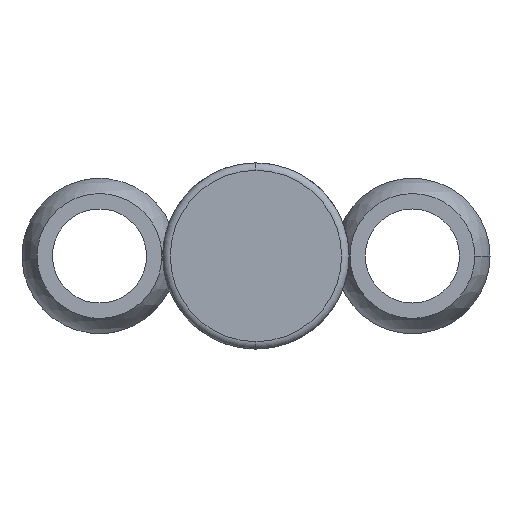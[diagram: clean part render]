
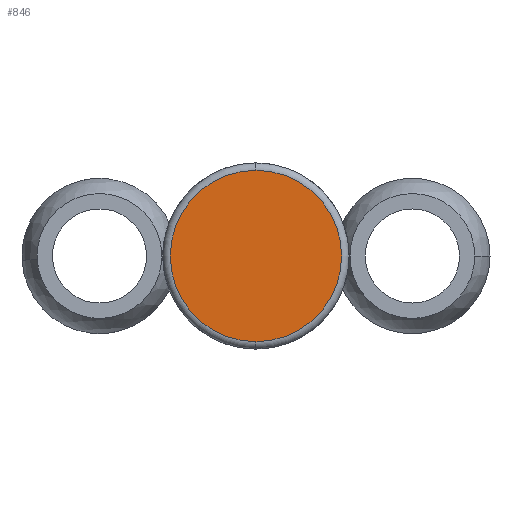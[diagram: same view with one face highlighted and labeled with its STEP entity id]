
A CAD part, front view. The second image highlights one B-rep face of the part: STEP entity #846.
In plain terms, the highlighted planar face has unit normal (0, -1, 0).
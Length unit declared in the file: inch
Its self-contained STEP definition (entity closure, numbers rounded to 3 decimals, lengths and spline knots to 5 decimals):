
#147 = CARTESIAN_POINT ( 'NONE',  ( 0., -1.25, -0.345 ) ) ;
#156 = DIRECTION ( 'NONE',  ( 0., -1., 0. ) ) ;
#182 = VERTEX_POINT ( 'NONE', #1378 ) ;
#199 = DIRECTION ( 'NONE',  ( 0., -1., 0. ) ) ;
#218 = CARTESIAN_POINT ( 'NONE',  ( 0., -1.25, 0. ) ) ;
#380 = DIRECTION ( 'NONE',  ( 0., 0., 1. ) ) ;
#391 = AXIS2_PLACEMENT_3D ( 'NONE', #450, #789, #1008 ) ;
#450 = CARTESIAN_POINT ( 'NONE',  ( 0., -1.25, 0. ) ) ;
#539 = DIRECTION ( 'NONE',  ( 0., 0., 1. ) ) ;
#691 = EDGE_LOOP ( 'NONE', ( #770, #1072 ) ) ;
#770 = ORIENTED_EDGE ( 'NONE', *, *, #1189, .T. ) ;
#789 = DIRECTION ( 'NONE',  ( 0., 1., 0. ) ) ;
#822 = CARTESIAN_POINT ( 'NONE',  ( 0., -1.25, 0. ) ) ;
#833 = AXIS2_PLACEMENT_3D ( 'NONE', #822, #156, #380 ) ;
#846 = ADVANCED_FACE ( 'NONE', ( #1352 ), #1240, .F. ) ;
#904 = VERTEX_POINT ( 'NONE', #147 ) ;
#985 = EDGE_CURVE ( 'NONE', #904, #182, #1340, .T. ) ;
#1008 = DIRECTION ( 'NONE',  ( 0., 0., 1. ) ) ;
#1072 = ORIENTED_EDGE ( 'NONE', *, *, #985, .T. ) ;
#1139 = AXIS2_PLACEMENT_3D ( 'NONE', #218, #199, #539 ) ;
#1145 = CIRCLE ( 'NONE', #1139, 0.345 ) ;
#1189 = EDGE_CURVE ( 'NONE', #182, #904, #1145, .T. ) ;
#1240 = PLANE ( 'NONE',  #391 ) ;
#1340 = CIRCLE ( 'NONE', #833, 0.345 ) ;
#1352 = FACE_OUTER_BOUND ( 'NONE', #691, .T. ) ;
#1378 = CARTESIAN_POINT ( 'NONE',  ( 0., -1.25, 0.345 ) ) ;
